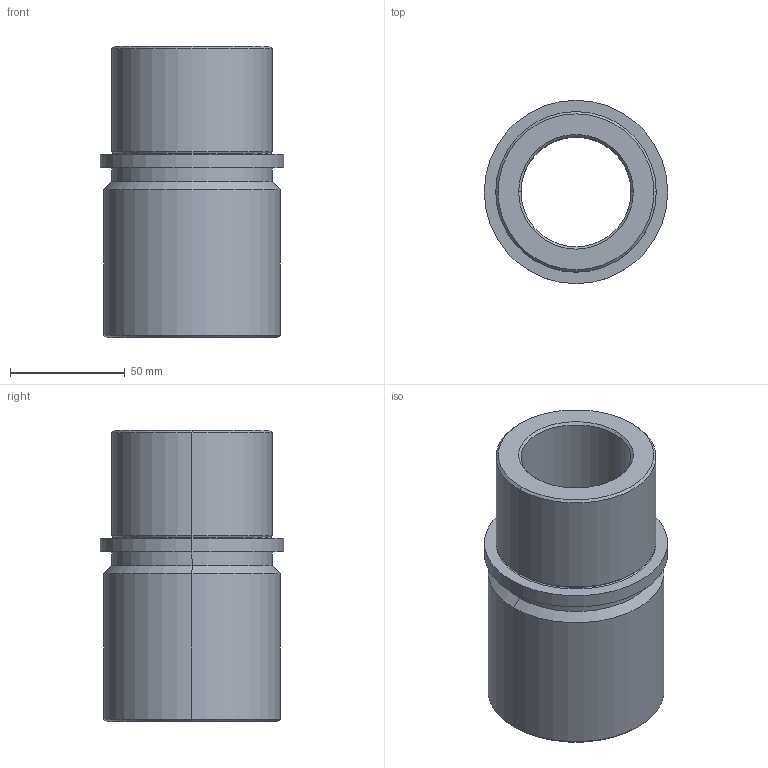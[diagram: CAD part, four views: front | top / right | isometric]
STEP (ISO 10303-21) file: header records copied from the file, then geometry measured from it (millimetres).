
FILE_DESCRIPTION (( 'STEP AP214' ), '1' );
FILE_NAME ('Casquillo SB500-48-127 b.STEP', '2019-01-10T13:35:19', ( '' ), ( '' ), 'SwSTEP 2.0', 'SolidWorks 2018', '' );
FILE_SCHEMA (( 'AUTOMOTIVE_DESIGN' ));
Length unit declared in the file: millimetre
Products named in the file (1): Casquillo SB500-48-127 b
Bounding box: 80 x 80 x 127 mm (x, y, z)
Volume: 319027.1 mm3; surface area: 56153.2 mm2
Topology: 1 solids, 1 shells, 40 faces, 80 edges, 44 vertices
Faces by surface type: cylinder 14, torus 12, cone 10, plane 4
Entity records: 1074 total; most frequent: DIRECTION 218, CARTESIAN_POINT 165, ORIENTED_EDGE 160, AXIS2_PLACEMENT_3D 97, EDGE_CURVE 80, CIRCLE 56, VERTEX_POINT 44, EDGE_LOOP 44
